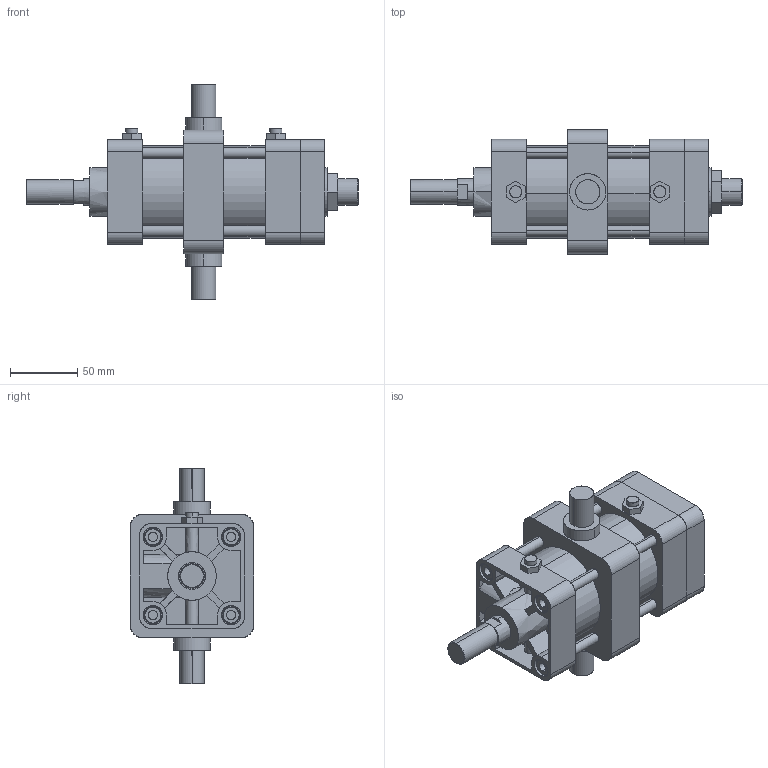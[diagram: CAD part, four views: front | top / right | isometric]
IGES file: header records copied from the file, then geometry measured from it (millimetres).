
Start section: SolidWorks IGES file using analytic representation for surfaces
Global section: file name: C:\Users\Toshiba\Desktop\KGA2-63#-50-T.IGS; native system: SolidWorks 2014; preprocessor: SolidWorks 2014; author: Toshiba; date: 160414.154247; units: millimetre
Bounding box: 246.5 x 92 x 160 mm (x, y, z)
Surface area: 173542.5 mm2 (no closed solid volume)
Topology: 0 solids, 0 shells, 386 faces, 6548 edges, 6544 vertices
Faces by surface type: bspline 200, revolution 186
